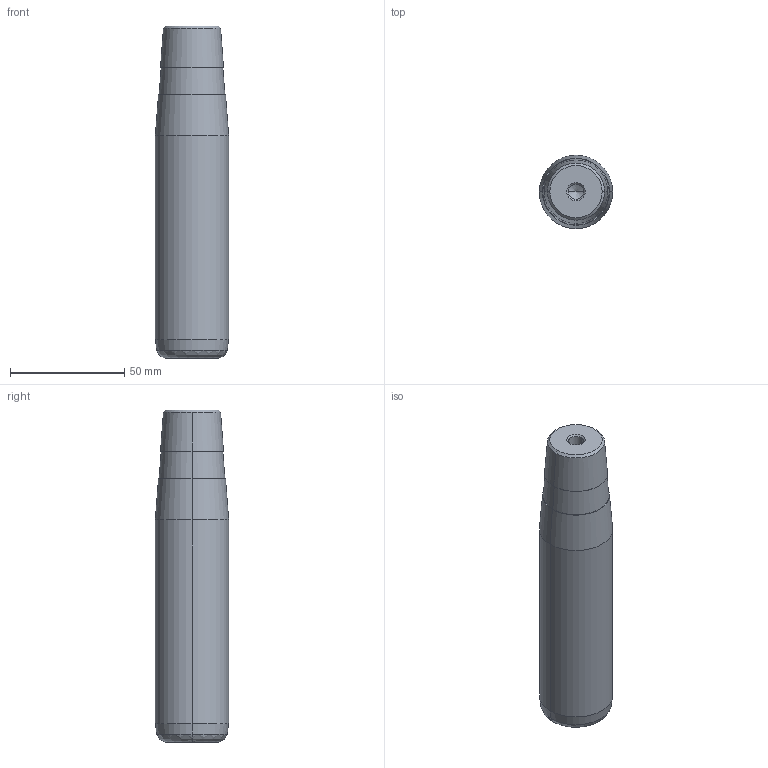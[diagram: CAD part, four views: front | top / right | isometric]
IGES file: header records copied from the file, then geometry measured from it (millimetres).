
Start section: START RECORD GO HERE.
Global section: file name: 722-32x112x145.igs; native system: DASSAULT SYSTEMES CATIA V5 R20 - www.3ds.com; preprocessor: CATIA Version 5 Release 20 ; author: Utente; organization: NB04-ASUS; date: 20210108.171413; units: millimetre
Bounding box: 32 x 32 x 145 mm (x, y, z)
Surface area: 16151.7 mm2 (no closed solid volume)
Topology: 0 solids, 0 shells, 32 faces, 128 edges, 124 vertices
Faces by surface type: revolution 30, plane 2
